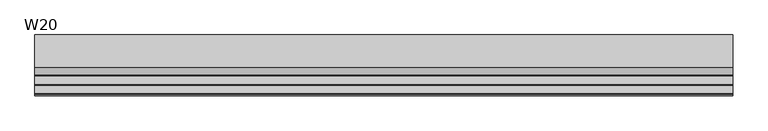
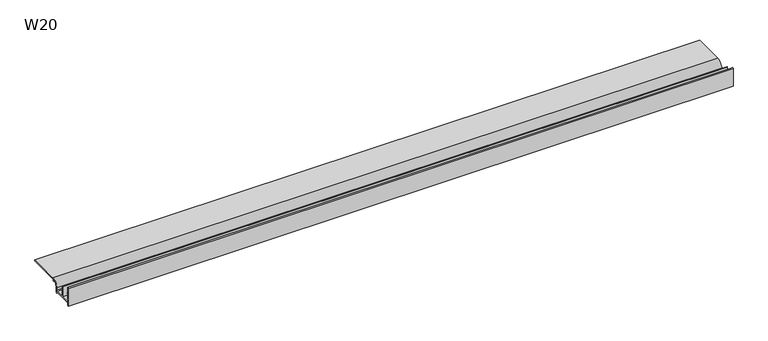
"""IFC4 building model written with IfcOpenShell, lengths in millimetres: proxy geometry, W20 Profil okapowy prosty : W20."""

from ifc_helpers import new_model, si_unit, point, frame, frame_2d, origin, place, context, project, spatial, polyline, circle_curve, trimmed, segment, composite_curve, outline, extrude, source, transform, mapped, element, save


def w20_69c16bf3(model_context):
    return source(origin(), model_context, "Body", "SweptSolid", [
        extrude(outline(composite_curve([segment(polyline([(-0.1599998, -5.7558512), (-1.1999998, -5.7558512), (-1.1999998, -2.1692345)]), True, "CONTINUOUS"), segment(trimmed(circle_curve(frame_2d((1.2000002, -13.6)), 11.68), [point((-1.1999998, -2.1692345))], [point((-10.4799998, -13.6))], True, "CARTESIAN"), True, "CONTINUOUS"), segment(polyline([(-10.4799998, -13.6), (-10.4799998, -24.2657388), (-11.6799998, -25.0068739), (-11.6799998, -21.92), (-51.1983148, -21.92), (-51.1983148, -26.4811576), (-52.3999998, -27.6828427), (-52.3999998, 9.434066)]), True, "CONTINUOUS"), segment(trimmed(circle_curve(frame_2d((-50.5599998, 9.434066)), 1.84), [point((-52.3999998, 9.434066))], [point((-50.9473682, 11.2328282))], False, "CARTESIAN"), True, "CONTINUOUS"), segment(polyline([(-50.9473682, 11.2328282), (-50.6947367, 10.0597224)]), True, "CONTINUOUS"), segment(trimmed(circle_curve(frame_2d((-50.5599998, 9.434066)), 0.64), [point((-50.6947367, 10.0597224))], [point((-51.1999998, 9.434066))], True, "CARTESIAN"), True, "CONTINUOUS"), segment(polyline([(-51.1999998, 9.434066), (-51.1999998, -1.256), (-48.6399998, -1.256), (-48.6399998, -2.456), (-51.1999998, -2.456), (-51.1999998, -15.6), (-48.6399998, -15.6), (-48.6399998, -16.8), (-51.1999998, -16.8), (-51.1999998, -20.0), (-32.3890625, -20.0), (-32.3890625, 1.12487), (-31.1890625, 1.12487), (-31.1890625, -20.0), (-13.9999998, -20.0)]), True, "CONTINUOUS"), segment(trimmed(circle_curve(frame_2d((-13.9999998, -18.4)), 1.6), [point((-13.9999998, -20.0))], [point((-12.3999998, -18.4))], True, "CARTESIAN"), True, "CONTINUOUS"), segment(polyline([(-12.3999998, -18.4), (-12.3999998, -13.6)]), True, "CONTINUOUS"), segment(trimmed(circle_curve(frame_2d((1.2000002, -13.6)), 13.6), [point((-12.3999998, -13.6))], [point((1.2000002, 0.0))], False, "CARTESIAN"), True, "CONTINUOUS"), segment(polyline([(1.2000002, 0.0), (63.8400002, 0.0), (63.8400002, -1.92), (1.2000002, -1.92)]), True, "CONTINUOUS"), segment(trimmed(circle_curve(frame_2d((1.2000002, -13.6)), 11.68), [point((1.2000002, -1.92))], [point((-0.1599998, -1.9994483))], True, "CARTESIAN"), True, "CONTINUOUS"), segment(polyline([(-0.1599998, -1.9994483), (-0.1599998, -5.7558512)]), True, "CONTINUOUS")], self_intersect=False)), frame((0.0, 0.0, 0.0), z_axis=(1.0, 0.0, 0.0), x_axis=(0.0, 1.0, 0.0)), (0.0, 0.0, 1.0), 1337.3628589),
    ])


if __name__ == "__main__":
    model = new_model("IFC4")
    model_context = context("Model", 3, world=origin())
    ifc_project = project(units=[si_unit("LENGTHUNIT", "METRE", prefix="MILLI")], contexts=[model_context])
    site = spatial("IfcSite", under=ifc_project)
    building = spatial("IfcBuilding", under=site)
    placement = place(None, origin())
    w20_shape = w20_69c16bf3(model_context)
    element("IfcBuildingElementProxy", 1, Name="W20 Profil okapowy prosty : W20", ObjectType="W20 Profil okapowy prosty : W20", at=placement, inside=building, context=model_context, shape_type="MappedRepresentation", body=[
        mapped(w20_shape, transform((0.0, 0.0, 0.0), x_axis=(1.0, 0.0, 0.0), y_axis=(0.0, 1.0, 0.0), z_axis=(0.0, 0.0, 1.0))),
    ])
    save(model, "model.ifc")
